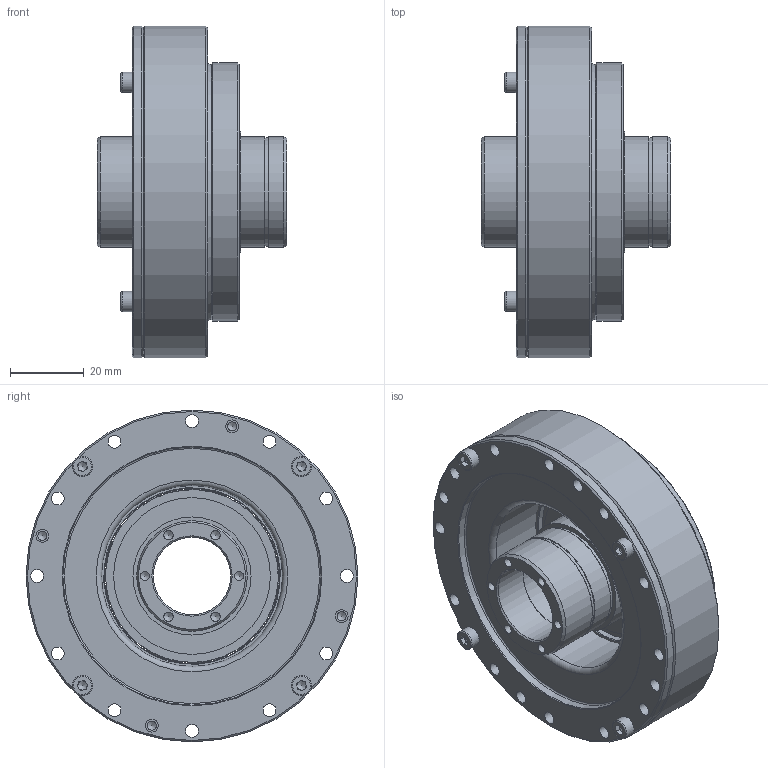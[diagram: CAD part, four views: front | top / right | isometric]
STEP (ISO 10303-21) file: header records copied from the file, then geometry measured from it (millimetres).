
FILE_DESCRIPTION (( 'STEP AP203' ), '1' );
FILE_NAME ('LHSG-20-XXX-C-III-ST-D2.STEP', '2025-07-15T06:08:46', ( '' ), ( '' ), 'SwSTEP 2.0', 'SolidWorks 2023', '' );
FILE_SCHEMA (( 'CONFIG_CONTROL_DESIGN' ));
Length unit declared in the file: millimetre
Products named in the file (1): LHSG-20-XXX-C-III-ST-D2
Bounding box: 51.5 x 90 x 90 mm (x, y, z)
Volume: 109348.8 mm3; surface area: 86580.3 mm2
Topology: 41 solids, 41 shells, 561 faces, 1359 edges, 873 vertices
Faces by surface type: plane 217, cylinder 208, cone 76, torus 37, sphere 23
Full cylindrical faces by diameter (mm): 2.5 x38, 3 x8, 3.5 x36, 3.7 x16, 5.5 x8, 5.8 x4, 21 x2, 21.5 x1, 29.5 x4, 30 x5, 32 x1, 33 x1, 35.745 x1, 37 x2, 38.5 x1, 39.499 x2, 40.17 x1, 42.5 x1, 46.83 x1, 47.507 x2, 49.086 x1, 49.882 x1, 50 x1, 50.266 x1, 51.2 x1, 54 x1, 55 x2, 57.6 x1, 63.006 x1, 70 x6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
Entity records: 13889 total; most frequent: DIRECTION 2650, CARTESIAN_POINT 2184, ORIENTED_EDGE 1810, AXIS2_PLACEMENT_3D 1183, EDGE_LOOP 984, EDGE_CURVE 905, FACE_OUTER_BOUND 737, VERTEX_POINT 717
